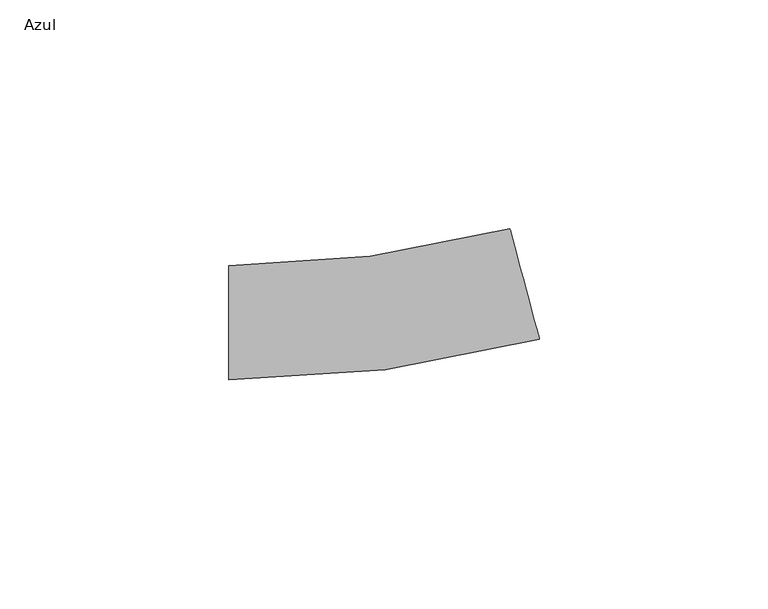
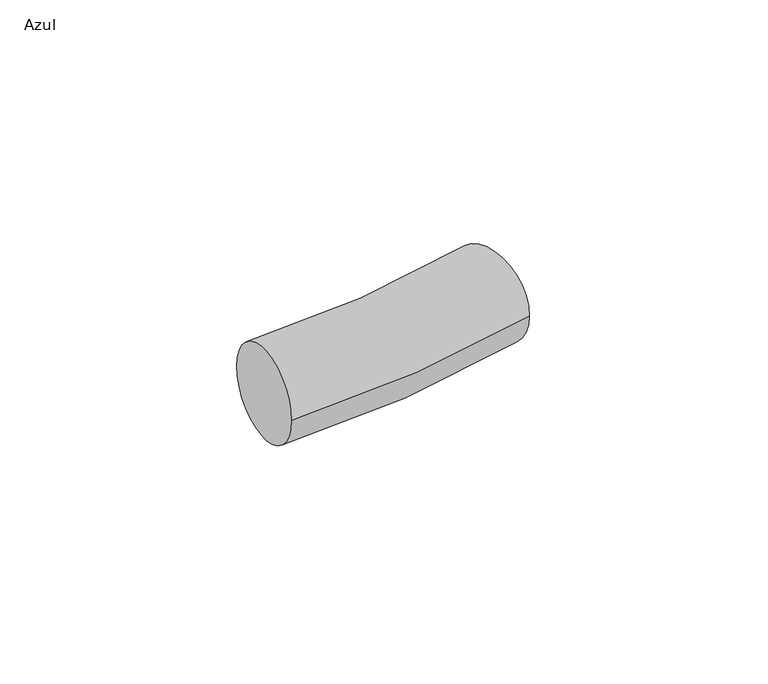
"""IFC4 building model written with IfcOpenShell, lengths in millimetres: pipe fitting geometry, AmancoWavin_UnionesdeTubería_TigrisFlexTuberíaFlexible : Azul."""

from ifc_helpers import new_model, si_unit, point, frame, origin, place, context, project, spatial, circle_curve, ellipse_curve, trimmed, source, transform, mapped, element, save
from ifc_brep_helpers import plane_surface, revolved_surface, advanced_brep


def azul_4665513f(model_context):
    return source(origin(), model_context, "Body", "AdvancedBrep", [
        advanced_brep(
        [(-32.9131244, -12.5, 0.0), (-32.9131244, 12.5, 0.0), (35.0268749, -3.5555294, 0.0), (28.5563988, 20.5926163, 0.0)],
        [
            (0, 1, circle_curve(frame((-32.9131244, 0.0, 0.0), z_axis=(-1.0, 0.0, 0.0), x_axis=(0.0, 1.0, 0.0)), 12.5)),
            (1, 0, circle_curve(frame((-32.9131244, 0.0, 0.0), z_axis=(-1.0, 0.0, 0.0), x_axis=(0.0, 1.0, 0.0)), 12.5)),
            (2, 3, circle_curve(frame((31.7916369, 8.5185434, 0.0), z_axis=(0.9659258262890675, 0.2588190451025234, 0.0), x_axis=(-0.2588190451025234, 0.9659258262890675, 0.0)), 12.5)),
            (3, 2, circle_curve(frame((31.7916369, 8.5185434, 0.0), z_axis=(0.9659258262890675, 0.2588190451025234, 0.0), x_axis=(-0.2588190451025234, 0.9659258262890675, 0.0)), 12.5)),
            (3, 1, circle_curve(frame((-32.9131244, 250.0, 0.0), z_axis=(0.0, 0.0, -1.0), x_axis=(0.0, -1.0, 0.0)), 237.5)),
            (0, 2, circle_curve(frame((-32.9131244, 250.0, 0.0), z_axis=(0.0, 0.0, 1.0), x_axis=(0.0, -1.0, 0.0)), 262.5)),
        ],
        [
            plane_surface(frame((-32.9131244, 0.0, 0.0), z_axis=(-1.0, 0.0, 0.0), x_axis=(0.0, 0.0, 1.0))),
            plane_surface(frame((31.7916369, 8.5185434, 0.0), z_axis=(0.9659258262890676, 0.2588190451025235, 0.0), x_axis=(0.0, 0.0, 1.0))),
            revolved_surface(trimmed(ellipse_curve(frame((-32.9131244, 0.0, 0.0), z_axis=(-1.0, 0.0, 0.0), x_axis=(0.0, 1.0, 0.0)), 12.5, 12.5), [point((-32.9131244, -12.5, 0.0))], [point((-32.9131244, 12.5, 0.0))], True, "CARTESIAN"), (-32.9131244, 250.0, 0.0), (0.0, 0.0, 1.0)),
            revolved_surface(trimmed(ellipse_curve(frame((-32.9131244, 0.0, 0.0), z_axis=(-1.0, 0.0, 0.0), x_axis=(0.0, 1.0, 0.0)), 12.5, 12.5), [point((-32.9131244, 12.5, 0.0))], [point((-32.9131244, -12.5, 0.0))], True, "CARTESIAN"), (-32.9131244, 250.0, 0.0), (0.0, 0.0, 1.0)),
        ],
        [
            (0, [[1, 2]]),
            (1, [[3, 4]]),
            (2, [[5, -1, 6, -4]]),
            (3, [[-6, -2, -5, -3]]),
        ],
    ),
    ])


if __name__ == "__main__":
    model = new_model("IFC4")
    model_context = context("Model", 3, world=origin())
    ifc_project = project(units=[si_unit("LENGTHUNIT", "METRE", prefix="MILLI")], contexts=[model_context])
    site = spatial("IfcSite", under=ifc_project)
    building = spatial("IfcBuilding", under=site)
    placement = place(None, origin())
    azul_shape = azul_4665513f(model_context)
    element("IfcPipeFitting", 1, ObjectType="AmancoWavin_UnionesdeTubería_TigrisFlexTuberíaFlexible : Azul", at=placement, inside=building, context=model_context, shape_type="MappedRepresentation", body=[
        mapped(azul_shape, transform((0.0, 0.0, 0.0), x_axis=(1.0, 0.0, 0.0), y_axis=(0.0, 1.0, 0.0), z_axis=(0.0, 0.0, 1.0))),
    ])
    save(model, "model.ifc")
